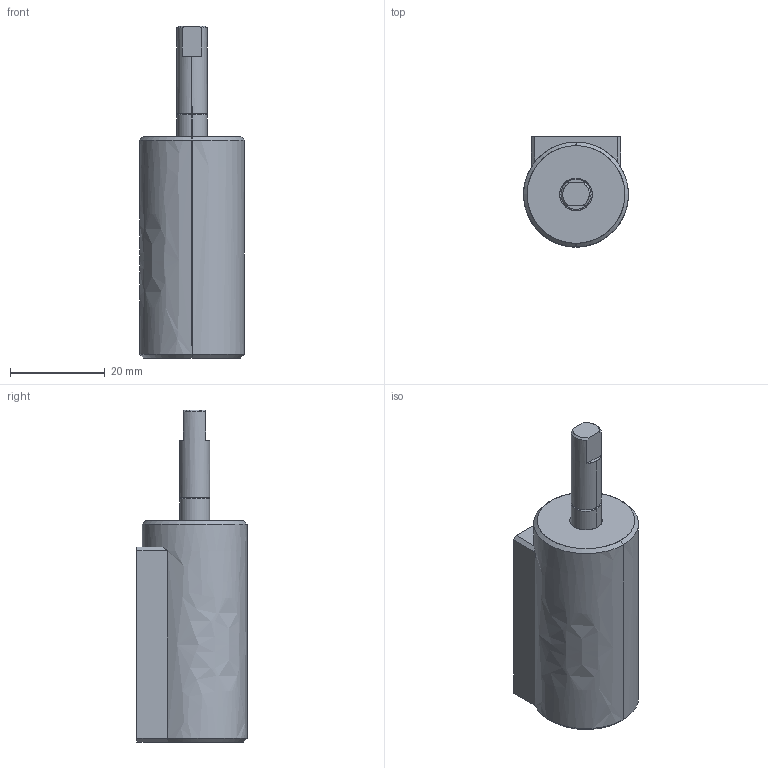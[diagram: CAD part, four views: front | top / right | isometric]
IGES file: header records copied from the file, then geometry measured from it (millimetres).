
Start section: SolidWorks IGES file using analytic representation for surfaces
Global section: file name: C:\Users\365admin\AppData\Local\Temp\InFlowXlateWorking\CVR-B-66.igs; native system: SolidWorks 2018; preprocessor: SolidWorks 2018; author: 365admin; date: 200824.123519; units: millimetre
Bounding box: 22.14 x 23.26 x 70.08 mm (x, y, z)
Surface area: 5313.8 mm2 (no closed solid volume)
Topology: 0 solids, 0 shells, 66 faces, 668 edges, 666 vertices
Faces by surface type: bspline 38, revolution 28
